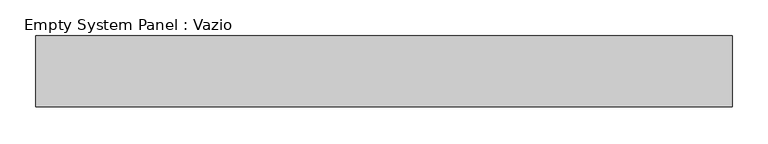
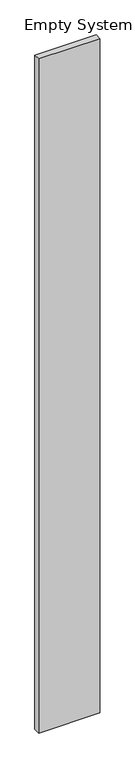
"""IFC4 building model written with IfcOpenShell, lengths in millimetres: plate geometry, Empty System Panel : Vazio."""

from ifc_helpers import new_model, si_unit, frame, origin, place, context, project, spatial, polyline, outline, extrude, source, transform, mapped, element, save


def empty_system_panel_vazio_d884d467(model_context):
    return source(origin(), model_context, "Body", "SweptSolid", [
        extrude(outline(polyline([(0.0, -490.0), (0.0, 490.0), (11384.7800793, 490.0), (11384.7186201, -490.0), (0.0, -490.0)])), frame((0.0, 50.0, 0.0), z_axis=(0.0, 1.0, 0.0), x_axis=(0.0, 0.0, 1.0)), (0.0, 0.0, 1.0), 100.0),
    ])


if __name__ == "__main__":
    model = new_model("IFC4")
    model_context = context("Model", 3, world=origin())
    ifc_project = project(units=[si_unit("LENGTHUNIT", "METRE", prefix="MILLI")], contexts=[model_context])
    site = spatial("IfcSite", under=ifc_project)
    building = spatial("IfcBuilding", under=site)
    placement = place(None, origin())
    empty_system_panel_vazio_shape = empty_system_panel_vazio_d884d467(model_context)
    element("IfcPlate", 1, ObjectType="Empty System Panel : Vazio", at=placement, inside=building, context=model_context, shape_type="MappedRepresentation", body=[
        mapped(empty_system_panel_vazio_shape, transform((0.0, 0.0, 0.0), x_axis=(1.0, 0.0, 0.0), y_axis=(0.0, 1.0, 0.0), z_axis=(0.0, 0.0, 1.0))),
    ])
    save(model, "model.ifc")
